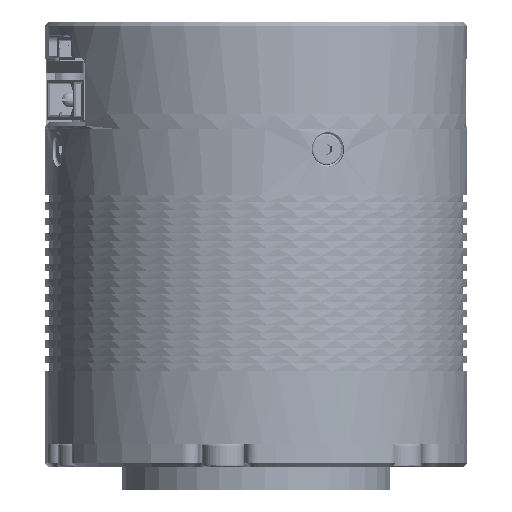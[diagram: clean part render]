
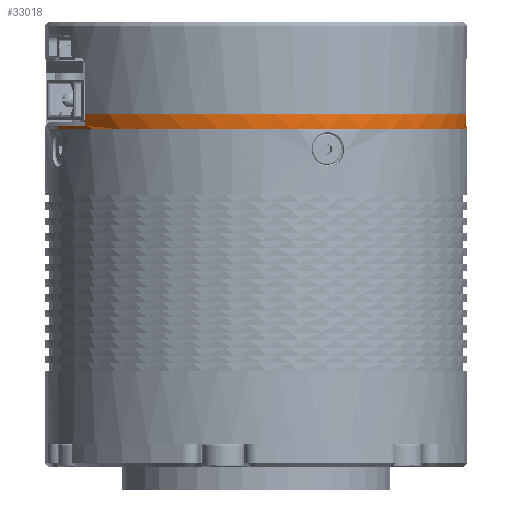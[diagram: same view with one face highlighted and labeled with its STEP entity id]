
A CAD part, front view. The second image highlights one B-rep face of the part: STEP entity #33018.
In plain terms, the highlighted cylindrical face has radius 27.5 mm (diameter 55 mm), a partial arc.
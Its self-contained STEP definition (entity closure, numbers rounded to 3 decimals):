
#5354 = DIRECTION ( 'NONE',  ( 0., 0., -1. ) ) ;
#7240 = ORIENTED_EDGE ( 'NONE', *, *, #62952, .F. ) ;
#10234 = EDGE_CURVE ( 'NONE', #118977, #92829, #56727, .T. ) ;
#15126 = CARTESIAN_POINT ( 'NONE',  ( -26.458, -7.5, 8. ) ) ;
#17291 = VERTEX_POINT ( 'NONE', #85579 ) ;
#17987 = VERTEX_POINT ( 'NONE', #84593 ) ;
#19755 = CARTESIAN_POINT ( 'NONE',  ( 27.5, 0., 8. ) ) ;
#22341 = CARTESIAN_POINT ( 'NONE',  ( 0., 0., 7. ) ) ;
#33018 = ADVANCED_FACE ( 'NONE', ( #61884 ), #87239, .T. ) ;
#33735 = DIRECTION ( 'NONE',  ( 0., 0., -1. ) ) ;
#34228 = DIRECTION ( 'NONE',  ( -1., 0., 0. ) ) ;
#34725 = ORIENTED_EDGE ( 'NONE', *, *, #10234, .T. ) ;
#35109 = CARTESIAN_POINT ( 'NONE',  ( 0., 0., 8. ) ) ;
#38343 = ORIENTED_EDGE ( 'NONE', *, *, #121757, .F. ) ;
#40103 = ORIENTED_EDGE ( 'NONE', *, *, #135252, .F. ) ;
#45517 = CARTESIAN_POINT ( 'NONE',  ( -27.5, 0., 5. ) ) ;
#51328 = VERTEX_POINT ( 'NONE', #45517 ) ;
#52073 = VERTEX_POINT ( 'NONE', #64482 ) ;
#53203 = DIRECTION ( 'NONE',  ( 1., 0., 0. ) ) ;
#54000 = CARTESIAN_POINT ( 'NONE',  ( 26.458, -7.5, 8. ) ) ;
#56727 = LINE ( 'NONE', #54000, #116311 ) ;
#56964 = DIRECTION ( 'NONE',  ( 0., 0., -1. ) ) ;
#57178 = LINE ( 'NONE', #68169, #76023 ) ;
#61884 = FACE_OUTER_BOUND ( 'NONE', #117463, .T. ) ;
#62952 = EDGE_CURVE ( 'NONE', #17291, #17987, #113749, .T. ) ;
#64482 = CARTESIAN_POINT ( 'NONE',  ( -26.458, -7.5, 5.5 ) ) ;
#65689 = DIRECTION ( 'NONE',  ( 0., 0., 1. ) ) ;
#67002 = AXIS2_PLACEMENT_3D ( 'NONE', #35109, #33735, #86552 ) ;
#68169 = CARTESIAN_POINT ( 'NONE',  ( -27.5, 0., 8. ) ) ;
#68480 = CARTESIAN_POINT ( 'NONE',  ( 0., 0., 5.5 ) ) ;
#69379 = AXIS2_PLACEMENT_3D ( 'NONE', #125433, #5354, #34228 ) ;
#71302 = CIRCLE ( 'NONE', #99830, 27.5 ) ;
#72425 = CARTESIAN_POINT ( 'NONE',  ( -26.458, -7.5, 7. ) ) ;
#75351 = EDGE_CURVE ( 'NONE', #105135, #52073, #118047, .T. ) ;
#75887 = EDGE_CURVE ( 'NONE', #17291, #118977, #71302, .T. ) ;
#76023 = VECTOR ( 'NONE', #108670, 1000. ) ;
#76290 = AXIS2_PLACEMENT_3D ( 'NONE', #68480, #87727, #88390 ) ;
#76492 = AXIS2_PLACEMENT_3D ( 'NONE', #22341, #127267, #53203 ) ;
#84479 = VERTEX_POINT ( 'NONE', #109867 ) ;
#84593 = CARTESIAN_POINT ( 'NONE',  ( 27.5, 0., 5. ) ) ;
#85579 = CARTESIAN_POINT ( 'NONE',  ( 27.5, 0., 5.5 ) ) ;
#86552 = DIRECTION ( 'NONE',  ( -1., 0., 0. ) ) ;
#87239 = CYLINDRICAL_SURFACE ( 'NONE', #67002, 27.5 ) ;
#87727 = DIRECTION ( 'NONE',  ( 0., 0., -1. ) ) ;
#88041 = ORIENTED_EDGE ( 'NONE', *, *, #75351, .T. ) ;
#88390 = DIRECTION ( 'NONE',  ( 1., 0., 0. ) ) ;
#89129 = VECTOR ( 'NONE', #56964, 1000. ) ;
#90825 = ORIENTED_EDGE ( 'NONE', *, *, #97580, .T. ) ;
#92829 = VERTEX_POINT ( 'NONE', #107569 ) ;
#95423 = DIRECTION ( 'NONE',  ( 0., 0., -1. ) ) ;
#97580 = EDGE_CURVE ( 'NONE', #84479, #51328, #57178, .T. ) ;
#99830 = AXIS2_PLACEMENT_3D ( 'NONE', #123081, #95423, #113487 ) ;
#100586 = VECTOR ( 'NONE', #103482, 1000. ) ;
#103482 = DIRECTION ( 'NONE',  ( 0., 0., -1. ) ) ;
#105135 = VERTEX_POINT ( 'NONE', #72425 ) ;
#107569 = CARTESIAN_POINT ( 'NONE',  ( 26.458, -7.5, 7. ) ) ;
#107686 = ORIENTED_EDGE ( 'NONE', *, *, #120751, .T. ) ;
#108670 = DIRECTION ( 'NONE',  ( 0., 0., -1. ) ) ;
#109867 = CARTESIAN_POINT ( 'NONE',  ( -27.5, 0., 5.5 ) ) ;
#113142 = CIRCLE ( 'NONE', #69379, 27.5 ) ;
#113487 = DIRECTION ( 'NONE',  ( -1., 0., 0. ) ) ;
#113749 = LINE ( 'NONE', #19755, #100586 ) ;
#116311 = VECTOR ( 'NONE', #65689, 1000. ) ;
#117463 = EDGE_LOOP ( 'NONE', ( #7240, #134902, #34725, #38343, #88041, #107686, #90825, #40103 ) ) ;
#118047 = LINE ( 'NONE', #15126, #89129 ) ;
#118977 = VERTEX_POINT ( 'NONE', #131170 ) ;
#120751 = EDGE_CURVE ( 'NONE', #52073, #84479, #124413, .T. ) ;
#121757 = EDGE_CURVE ( 'NONE', #105135, #92829, #122474, .T. ) ;
#122474 = CIRCLE ( 'NONE', #76492, 27.5 ) ;
#123081 = CARTESIAN_POINT ( 'NONE',  ( 0., 0., 5.5 ) ) ;
#124413 = CIRCLE ( 'NONE', #76290, 27.5 ) ;
#125433 = CARTESIAN_POINT ( 'NONE',  ( 0., 0., 5. ) ) ;
#127267 = DIRECTION ( 'NONE',  ( 0., 0., 1. ) ) ;
#131170 = CARTESIAN_POINT ( 'NONE',  ( 26.458, -7.5, 5.5 ) ) ;
#134902 = ORIENTED_EDGE ( 'NONE', *, *, #75887, .T. ) ;
#135252 = EDGE_CURVE ( 'NONE', #17987, #51328, #113142, .T. ) ;
